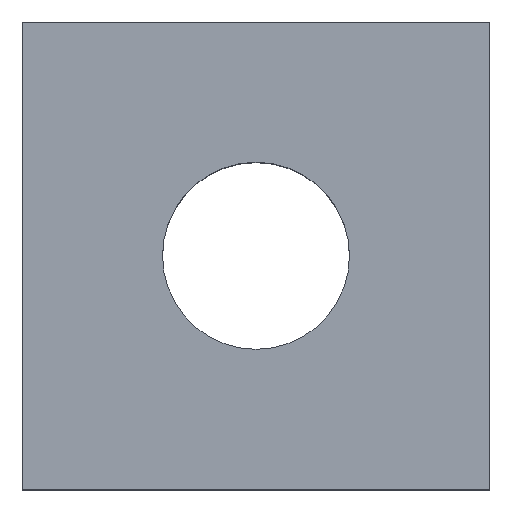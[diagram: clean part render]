
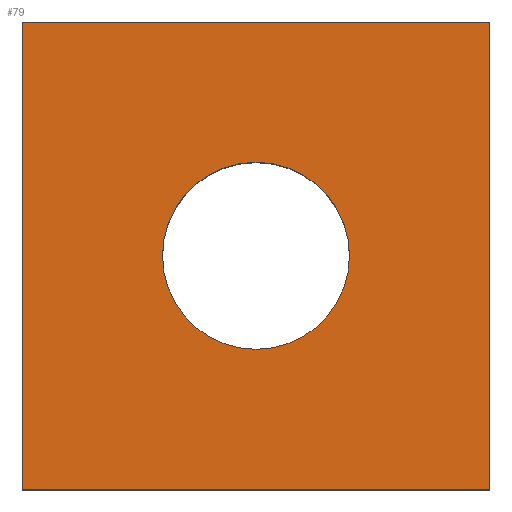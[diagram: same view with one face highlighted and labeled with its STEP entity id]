
A CAD part, top view. The second image highlights one B-rep face of the part: STEP entity #79.
In plain terms, the highlighted free-form (B-spline) face has degree [1, 1] with [2, 2] control points.
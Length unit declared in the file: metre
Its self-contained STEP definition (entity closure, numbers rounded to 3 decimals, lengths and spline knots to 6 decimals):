
#79 = ADVANCED_FACE( '', ( #93, #94 ), #95, .T. );
#93 = FACE_BOUND( '', #139, .T. );
#94 = FACE_OUTER_BOUND( '', #140, .T. );
#95 = B_SPLINE_SURFACE_WITH_KNOTS( '', 1, 1, ( ( #141, #142 ), ( #143, #144 ) ), .UNSPECIFIED., .F., .F., .F., ( 2, 2 ), ( 2, 2 ), ( 0., 1. ), ( 0., 1. ), .UNSPECIFIED. );
#139 = EDGE_LOOP( '', ( #170 ) );
#140 = EDGE_LOOP( '', ( #171, #172, #173, #174 ) );
#141 = CARTESIAN_POINT( '', ( 10.475857, 6.583658, 0.276061 ) );
#142 = CARTESIAN_POINT( '', ( 10.475857, 6.594658, 0.276061 ) );
#143 = CARTESIAN_POINT( '', ( 10.486857, 6.583658, 0.276061 ) );
#144 = CARTESIAN_POINT( '', ( 10.486857, 6.594658, 0.276061 ) );
#170 = ORIENTED_EDGE( '', *, *, #187, .F. );
#171 = ORIENTED_EDGE( '', *, *, #194, .T. );
#172 = ORIENTED_EDGE( '', *, *, #195, .T. );
#173 = ORIENTED_EDGE( '', *, *, #183, .T. );
#174 = ORIENTED_EDGE( '', *, *, #189, .T. );
#183 = EDGE_CURVE( '', #197, #198, #199, .T. );
#187 = EDGE_CURVE( '', #205, #205, #206, .T. );
#189 = EDGE_CURVE( '', #198, #209, #210, .T. );
#194 = EDGE_CURVE( '', #209, #217, #218, .T. );
#195 = EDGE_CURVE( '', #217, #197, #219, .T. );
#197 = VERTEX_POINT( '', #221 );
#198 = VERTEX_POINT( '', #222 );
#199 = LINE( '', #223, #224 );
#205 = VERTEX_POINT( '', #233 );
#206 = CIRCLE( '', #234, 0.002 );
#209 = VERTEX_POINT( '', #237 );
#210 = LINE( '', #238, #239 );
#217 = VERTEX_POINT( '', #250 );
#218 = LINE( '', #251, #252 );
#219 = LINE( '', #253, #254 );
#221 = CARTESIAN_POINT( '', ( 10.476357, 6.584158, 0.276061 ) );
#222 = CARTESIAN_POINT( '', ( 10.486357, 6.584158, 0.276061 ) );
#223 = CARTESIAN_POINT( '', ( 10.481357, 6.584158, 0.276061 ) );
#224 = VECTOR( '', #257, 1. );
#233 = CARTESIAN_POINT( '', ( 10.483357, 6.589158, 0.276061 ) );
#234 = AXIS2_PLACEMENT_3D( '', #261, #262, #263 );
#237 = CARTESIAN_POINT( '', ( 10.486357, 6.594158, 0.276061 ) );
#238 = CARTESIAN_POINT( '', ( 10.486357, 6.589158, 0.276061 ) );
#239 = VECTOR( '', #267, 1. );
#250 = CARTESIAN_POINT( '', ( 10.476357, 6.594158, 0.276061 ) );
#251 = CARTESIAN_POINT( '', ( 10.481357, 6.594158, 0.276061 ) );
#252 = VECTOR( '', #272, 1. );
#253 = CARTESIAN_POINT( '', ( 10.476357, 6.589158, 0.276061 ) );
#254 = VECTOR( '', #273, 1. );
#257 = DIRECTION( '', ( 1., 0., 0. ) );
#261 = CARTESIAN_POINT( '', ( 10.481357, 6.589158, 0.276061 ) );
#262 = DIRECTION( '', ( 0., 0., 1. ) );
#263 = DIRECTION( '', ( 0., -1., 0. ) );
#267 = DIRECTION( '', ( 0., 1., 0. ) );
#272 = DIRECTION( '', ( -1., 0., 0. ) );
#273 = DIRECTION( '', ( 0., -1., 0. ) );
